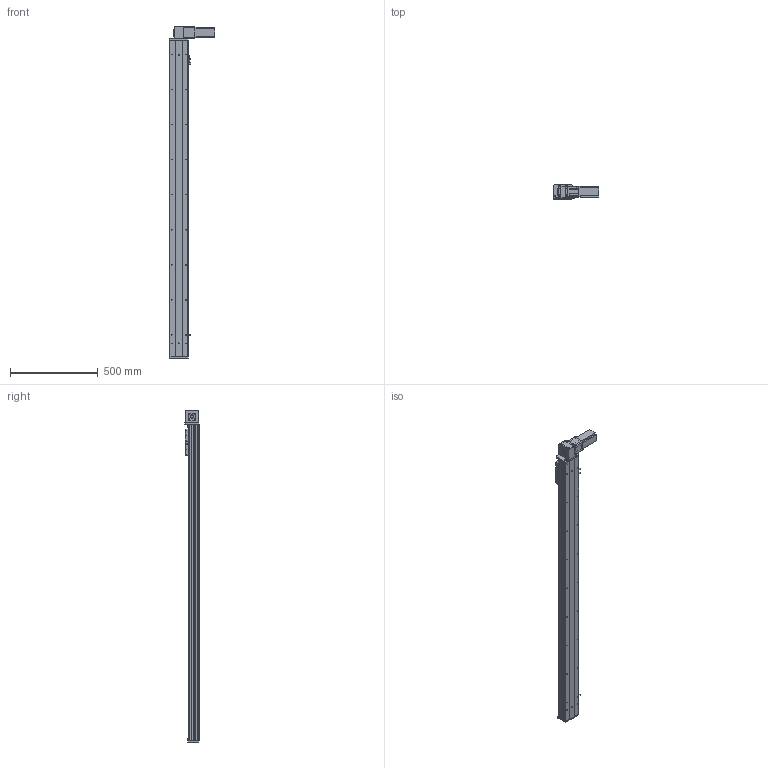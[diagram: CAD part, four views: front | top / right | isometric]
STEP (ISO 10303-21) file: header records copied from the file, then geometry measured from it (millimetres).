
FILE_DESCRIPTION (( 'STEP AP203' ), '1' );
FILE_NAME ('Y10CB-D90-S1550-BD-P400W.STEP', '2020-02-17T02:44:34', ( '微软用户' ), ( '微软中国' ), 'SwSTEP 2.0', 'SolidWorks 2017', '' );
FILE_SCHEMA (( 'CONFIG_CONTROL_DESIGN' ));
Length unit declared in the file: millimetre
Products named in the file (16): 0B-埴倛裔啣; 0B-薊粣ん眊; 10CB-詩湍-; Y10CB-D90-S1550-BD-P400W; Y10CB- 掛极耜裔啣-毀---; Y10C---詩湍揤啣; 0CB-雄赽釱---; 10CB9-掛极; 0Cb-俋欶---; 10CB-耜裔; Y10B-々湍喘謫眊楊擘啣--; Y135C-陔俋离換覜結え-; san松下电机400不带刹车----; Y100-135俋离換覜ん--; 0B-源倛裔啣; Y10B--々湍喘謫眊--666
Assembly tree (19 placements, depth 2):
  Y10CB-D90-S1550-BD-P400W
    0CB-雄赽釱---
    0Cb-俋欶---
    Y10B-々湍喘謫眊楊擘啣--
    san松下电机400不带刹车----
    0B-源倛裔啣
    0B-埴倛裔啣
    10CB-詩湍-
    Y10CB- 掛极耜裔啣-毀---  x2
    Y10C---詩湍揤啣  x2
    10CB9-掛极
    10CB-耜裔
    Y135C-陔俋离換覜結え-
    Y100-135俋离換覜ん--  x3
    Y10B--々湍喘謫眊--666
    0B-薊粣ん眊
Bounding box: 258 x 80.5 x 1896 mm (x, y, z)
Volume: 4095850.6 mm3; surface area: 1852117 mm2
Topology: 19 solids, 19 shells, 936 faces, 2502 edges, 1628 vertices
Faces by surface type: cylinder 470, plane 442, cone 24
Entity records: 29069 total; most frequent: CARTESIAN_POINT 5348, DIRECTION 4661, ORIENTED_EDGE 4474, EDGE_CURVE 2237, AXIS2_PLACEMENT_3D 1671, VERTEX_POINT 1454, VECTOR 1319, LINE 1319
